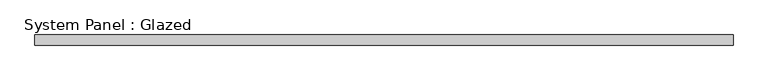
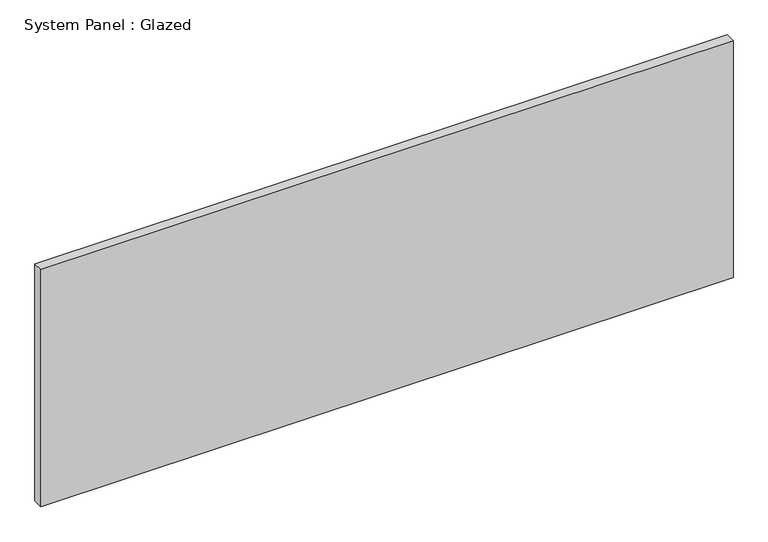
"""IFC4 building model written with IfcOpenShell, lengths in millimetres: plate geometry, System Panel : Glazed."""

from ifc_helpers import new_model, si_unit, origin, origin_with_axes, place, context, project, spatial, polyline, outline, extrude, source, transform, mapped, element, save


def system_panel_glazed_1ff09d7a(model_context):
    return source(origin(), model_context, "Body", "SweptSolid", [
        extrude(outline(polyline([(862.5000002, -49.5), (-862.5000002, -49.5), (-862.5000002, -24.5), (862.5000002, -24.5), (862.5000002, -49.5)])), origin_with_axes(), (0.0, 0.0, 1.0), 625.0),
    ])


if __name__ == "__main__":
    model = new_model("IFC4")
    model_context = context("Model", 3, world=origin())
    ifc_project = project(units=[si_unit("LENGTHUNIT", "METRE", prefix="MILLI")], contexts=[model_context])
    site = spatial("IfcSite", under=ifc_project)
    building = spatial("IfcBuilding", under=site)
    placement = place(None, origin())
    system_panel_glazed_shape = system_panel_glazed_1ff09d7a(model_context)
    element("IfcPlate", 1, ObjectType="System Panel : Glazed", at=placement, inside=building, context=model_context, shape_type="MappedRepresentation", body=[
        mapped(system_panel_glazed_shape, transform((0.0, 0.0, 0.0), x_axis=(1.0, 0.0, 0.0), y_axis=(0.0, 1.0, 0.0), z_axis=(0.0, 0.0, 1.0))),
    ])
    save(model, "model.ifc")
